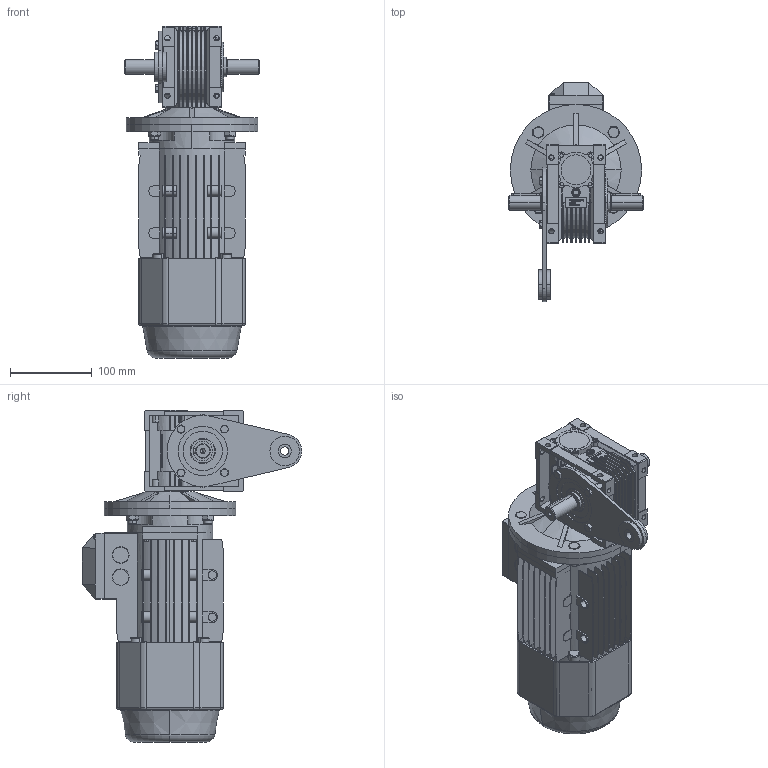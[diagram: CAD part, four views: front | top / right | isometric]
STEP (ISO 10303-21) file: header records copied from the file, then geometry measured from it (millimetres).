
FILE_DESCRIPTION (( 'STEP AP214' ), '1' );
FILE_NAME ('STP_NMRV040_双向输出轴_18_71B5_无_71_YEJ_1_无_扭力臂2_无或C1_无_无.step', '2023-06-15T08:26:00', ( 'Windows 用户' ), ( '' ), 'SwSTEP 2.0', 'SolidWorks 2016', '' );
FILE_SCHEMA (( 'AUTOMOTIVE_DESIGN' ));
Length unit declared in the file: millimetre
Products named in the file (3): STP_NMRV040_双向输出轴_18_71B5_无_71_YEJ_1_无_扭力臂2_无或C1_无_无_NMRV_NMRV040; STP_NMRV040_双向输出轴_18_71B5_无_71_YEJ_1_无_扭力臂2_无或C1_无_无; STP_NMRV040_双向输出轴_18_71B5_无_71_YEJ_1_无_扭力臂2_无或C1_无_无_IEC电机_YEJ-0.37-4P
Assembly tree (2 placements, depth 2):
  STP_NMRV040_双向输出轴_18_71B5_无_71_YEJ_1_无_扭力臂2_无或C1_无_无
    STP_NMRV040_双向输出轴_18_71B5_无_71_YEJ_1_无_扭力臂2_无或C1_无_无_NMRV_NMRV040
    STP_NMRV040_双向输出轴_18_71B5_无_71_YEJ_1_无_扭力臂2_无或C1_无_无_IEC电机_YEJ-0.37-4P
Bounding box: 164 x 267.7 x 405 mm (x, y, z)
Volume: 3849231.8 mm3; surface area: 612203.4 mm2
Topology: 10 solids, 10 shells, 3231 faces, 8522 edges, 5438 vertices
Faces by surface type: plane 1748, cylinder 718, bspline 435, sphere 127, cone 117, torus 86
Entity records: 121606 total; most frequent: CARTESIAN_POINT 41976, ORIENTED_EDGE 16890, DIRECTION 14668, EDGE_CURVE 8445, VERTEX_POINT 5436, LINE 5388, VECTOR 5388, AXIS2_PLACEMENT_3D 4640
